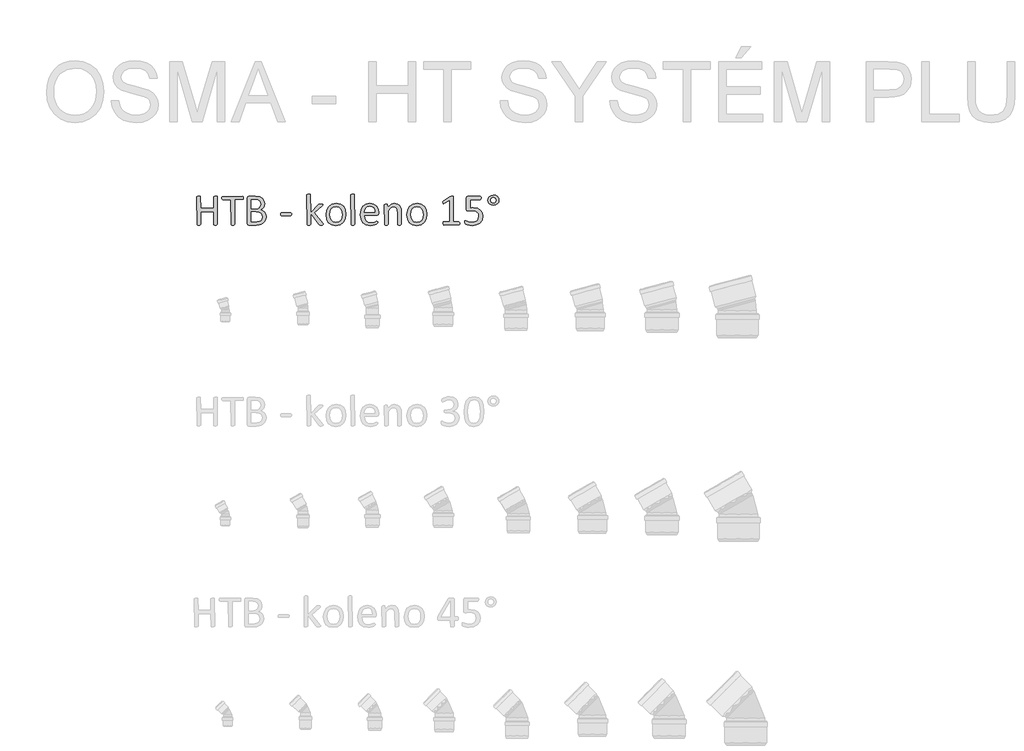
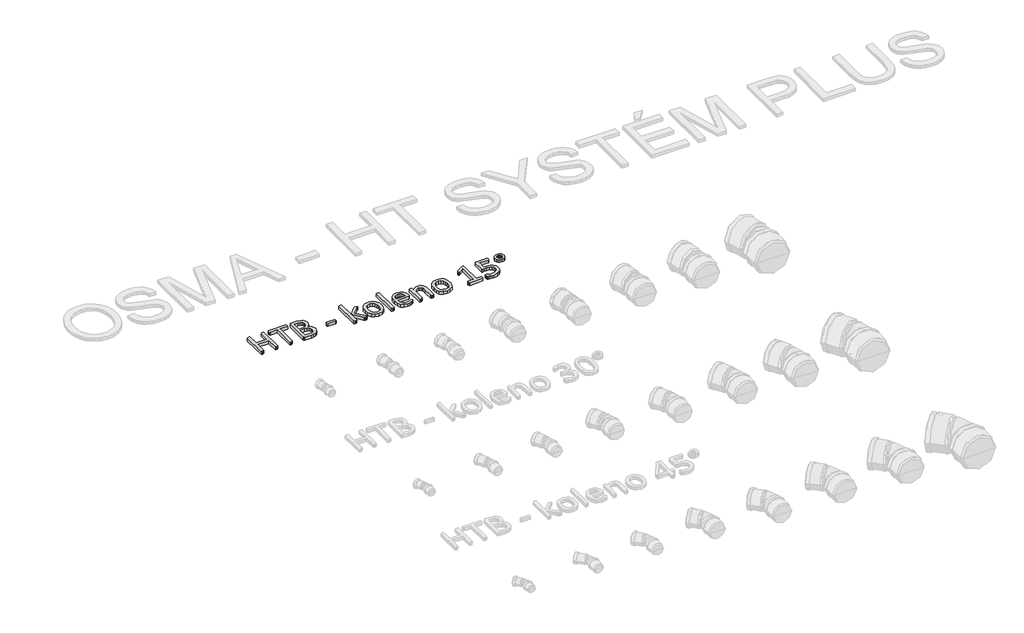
# One storey, part 26 of 26: 1 proxy.
"""IFC4 building model written with IfcOpenShell, lengths in millimetres."""

import ifcopenshell
import ifcopenshell.guid

model = None  # the IFC model being written
_history = None  # IfcOwnerHistory: only IFC2X3 demands one
_inside = {}  # id of a spatial element -> (the spatial element, [elements in it])
_under = {}  # id of a project, library or spatial element -> (it, [spatial elements below it])
_declared = {}  # id of a project -> (the project, [libraries it declares])
_typed = {}  # id of a type object -> (the type object, [elements of that type])
_made_of = {}  # id of a material, layer set ... -> (it, [elements and type objects made of it])


def new_model(schema):
    """Start an empty IFC model of exactly this schema.

    Asked for "IFC4X3", IfcOpenShell would pick the latest addendum, in which some entities
    have other attributes; the version numbers below select the first issue.
    IFC2X3 requires an IfcOwnerHistory on every rooted entity: one is made here for all.
    """
    global model, _history
    if schema == "IFC4X3":
        model = ifcopenshell.file(schema_version=(4, 3, 0, 0))
    else:
        model = ifcopenshell.file(schema=schema)
    _inside.clear()
    _under.clear()
    _declared.clear()
    _typed.clear()
    _made_of.clear()
    _history = None
    if model.schema == "IFC2X3":
        org = make("IfcOrganization", Name="unknown")
        user = make(
            "IfcPersonAndOrganization",
            ThePerson=make("IfcPerson", FamilyName="unknown"),
            TheOrganization=org,
        )
        app = make(
            "IfcApplication",
            ApplicationDeveloper=org,
            Version="unknown",
            ApplicationFullName="unknown",
            ApplicationIdentifier="unknown",
        )
        _history = make(
            "IfcOwnerHistory",
            OwningUser=user,
            OwningApplication=app,
            ChangeAction="ADDED",
            CreationDate=0,
        )
    return model


def make(cls, **values):
    """One entity of the class cls with the attributes given. An attribute that is None is left unset."""
    return model.create_entity(
        cls, **{name: value for name, value in values.items() if value is not None}
    )


def rooted(cls, **values):
    """An entity with a GlobalId (a new one), such as an element, a storey or a relation."""
    return make(cls, GlobalId=ifcopenshell.guid.new(), OwnerHistory=_history, **values)


def si_unit(unit_type, name, prefix=None):
    """IfcSIUnit, for example si_unit("LENGTHUNIT", "METRE", prefix="MILLI")."""
    return make("IfcSIUnit", UnitType=unit_type, Prefix=prefix, Name=name)


def assignment(units):
    """IfcUnitAssignment: the units of a project."""
    return None if units is None else make("IfcUnitAssignment", Units=units)


def point(xyz):
    """IfcCartesianPoint."""
    return None if xyz is None else make("IfcCartesianPoint", Coordinates=xyz)


def direction(xyz):
    """IfcDirection."""
    return None if xyz is None else make("IfcDirection", DirectionRatios=xyz)


def frame(location, z_axis=None, x_axis=None):
    """IfcAxis2Placement3D, a coordinate frame: its origin and axes. An axis left out is left unset."""
    return make(
        "IfcAxis2Placement3D",
        Location=point(location),
        Axis=direction(z_axis),
        RefDirection=direction(x_axis),
    )


def origin():
    """The frame at (0, 0, 0) with its axes left unset."""
    return frame((0.0, 0.0, 0.0))


def origin_with_axes():
    """The frame at (0, 0, 0) with the z axis (0, 0, 1) and the x axis (1, 0, 0) written out."""
    return frame((0.0, 0.0, 0.0), z_axis=(0.0, 0.0, 1.0), x_axis=(1.0, 0.0, 0.0))


def place(relative_to, where):
    """IfcLocalPlacement: puts the frame where relative to a parent placement (None: the world)."""
    return make(
        "IfcLocalPlacement", PlacementRelTo=relative_to, RelativePlacement=where
    )


def context(
    kind, dimensions, precision=None, world=None, true_north=None, identifier=None
):
    """IfcGeometricRepresentationContext, for example the 3D "Model" context."""
    return make(
        "IfcGeometricRepresentationContext",
        ContextIdentifier=identifier,
        ContextType=kind,
        CoordinateSpaceDimension=dimensions,
        Precision=precision,
        WorldCoordinateSystem=world,
        TrueNorth=true_north,
    )


def project(units=None, contexts=None):
    """IfcProject with its units and contexts."""
    return rooted(
        "IfcProject",
        Name="project",
        RepresentationContexts=contexts,
        UnitsInContext=assignment(units),
    )


def spatial(cls, under=None, at=None, **own):
    """A site, building, storey or space (cls), placed at a placement, below another one or the project."""
    s = rooted(cls, ObjectPlacement=at, **own)
    if under is not None:
        _under.setdefault(under.id(), (under, []))[1].append(s)
    return s


def polyline(points):
    """IfcPolyline through the points."""
    return make("IfcPolyline", Points=[point(p) for p in points])


def outline(outer, holes=None, kind="AREA"):
    """IfcArbitraryClosedProfileDef: a profile drawn as a closed curve; with holes, ...WithVoids."""
    if holes is None:
        return make("IfcArbitraryClosedProfileDef", ProfileType=kind, OuterCurve=outer)
    return make(
        "IfcArbitraryProfileDefWithVoids",
        ProfileType=kind,
        OuterCurve=outer,
        InnerCurves=holes,
    )


def extrude(swept, where, along, depth):
    """IfcExtrudedAreaSolid: the profile swept, set in the frame where, extruded along a direction by depth."""
    return make(
        "IfcExtrudedAreaSolid",
        SweptArea=swept,
        Position=where,
        ExtrudedDirection=direction(along),
        Depth=depth,
    )


def shape(context_of_items, identifier, shape_type, items):
    """IfcShapeRepresentation: the items that make up one representation, for example the "Body"."""
    return make(
        "IfcShapeRepresentation",
        ContextOfItems=context_of_items,
        RepresentationIdentifier=identifier,
        RepresentationType=shape_type,
        Items=items,
    )


def made_of(thing, what):
    """Note that an element or type object is made of a material, layer set ...; save() writes the relation."""
    if what is not None:
        _made_of.setdefault(what.id(), (what, []))[1].append(thing)
    return thing


def element(
    cls,
    number,
    at=None,
    inside=None,
    cuts=None,
    type_object=None,
    material=None,
    context=None,
    identifier="Body",
    shape_type=None,
    held_by="IfcProductDefinitionShape",
    body=None,
    shapes=None,
    **own,
):
    """One element of the class cls, such as IfcWall. Its Tag is "e" and its number.

    at: its placement. inside: the storey or other place that contains it. cuts: it is an
    opening in that element (IfcRelVoidsElement). A single representation is given by context,
    identifier, shape_type and body (its items); several are given by shapes. held_by: the class
    of the entity that holds the representations. save() writes the other relations.
    """
    e = rooted(cls, Tag="e%d" % number, ObjectPlacement=at, **own)
    if body is not None:
        shapes = [shape(context, identifier, shape_type, body)]
    if shapes is not None:
        e.Representation = make(held_by, Representations=shapes)
    if inside is not None:
        _inside.setdefault(inside.id(), (inside, []))[1].append(e)
    if cuts is not None:
        rooted(
            "IfcRelVoidsElement", RelatingBuildingElement=cuts, RelatedOpeningElement=e
        )
    if type_object is not None:
        _typed.setdefault(type_object.id(), (type_object, []))[1].append(e)
    return made_of(e, material)


def aggregate(whole, parts):
    """IfcRelAggregates: a whole, such as a stair, and the parts it consists of."""
    return rooted("IfcRelAggregates", RelatingObject=whole, RelatedObjects=parts)


def save(model, path):
    """Write the relations noted so far, then the file.

    IfcRelAggregates (storeys below a building ...), IfcRelContainedInSpatialStructure (elements
    in a storey), IfcRelDefinesByType, IfcRelAssociatesMaterial and IfcRelDeclares: one each for
    every whole, place, type object, material and project.
    """
    for whole, parts in _under.values():
        aggregate(whole, parts)
    for where, things in _inside.values():
        rooted(
            "IfcRelContainedInSpatialStructure",
            RelatedElements=things,
            RelatingStructure=where,
        )
    for kind, things in _typed.values():
        rooted("IfcRelDefinesByType", RelatedObjects=things, RelatingType=kind)
    for what, things in _made_of.values():
        rooted("IfcRelAssociatesMaterial", RelatedObjects=things, RelatingMaterial=what)
    for by, libraries in _declared.values():
        rooted("IfcRelDeclares", RelatingContext=by, RelatedDefinitions=libraries)
    model.write(path)


model = new_model("IFC4")

# Units and contexts
model_context = context("Model", 3, world=origin())
ifc_project = project(units=[si_unit("LENGTHUNIT", "METRE", prefix="MILLI")], contexts=[model_context])

# Site, building, storey
site = spatial("IfcSite", under=ifc_project)
building = spatial("IfcBuilding", under=site)
storey = spatial("IfcBuildingStorey", under=building, Name="Podlaží 1", Elevation=0.0)

# Proxy
placement = place(None, origin())
element("IfcBuildingElementProxy", 1, Name="120mm Arial", ObjectType="120mm Arial", at=placement, inside=storey, context=model_context, shape_type="SweptSolid", body=[
    extrude(outline(polyline([(-20454.3813255, 22147.5389944), (-20458.5973427, 22144.8067258), (-20462.45147, 22144.5714973), (-20466.4322587, 22144.8067258), (-20468.8931099, 22145.3495606), (-20470.5939924, 22200.1577836), (-20523.8641833, 22200.1577836), (-20523.8641833, 22147.5028054), (-20528.062106, 22144.8067258), (-20531.9705167, 22144.5714973), (-20535.8427385, 22144.8067258), (-20538.3759677, 22145.3676551), (-20540.0768502, 22262.0409538), (-20535.8427385, 22264.7732224), (-20531.9705167, 22265.0084509), (-20528.062106, 22264.7732224), (-20525.5650658, 22264.2122931), (-20523.8641833, 22214.0543551), (-20470.5939924, 22214.0543551), (-20470.5939924, 22262.0409538), (-20466.4322587, 22264.7732224), (-20462.45147, 22265.0084509), (-20458.5973427, 22264.7732224), (-20456.082208, 22264.2122931), (-20454.3813255, 22147.5389944)])), origin_with_axes(), (0.0, 0.0, 1.0), 15.0),
    extrude(outline(polyline([(-20345.5248483, 22257.9515981), (-20345.7057933, 22254.8212506), (-20346.3029116, 22252.6861003), (-20382.5823725, 22251.1118793), (-20382.5823725, 22147.5389944), (-20386.7802951, 22144.8067258), (-20390.6887059, 22144.5714973), (-20394.5609276, 22144.8067258), (-20397.0941568, 22145.3676551), (-20398.7950393, 22251.1118793), (-20432.7041215, 22251.1118793), (-20435.617335, 22254.8212506), (-20435.8525635, 22257.9515981), (-20435.617335, 22261.1543236), (-20435.0021222, 22263.3980409), (-20348.7094793, 22265.0084509), (-20346.3210061, 22263.3980409), (-20345.7057933, 22261.1543236), (-20345.5248483, 22257.9515981)])), origin_with_axes(), (0.0, 0.0, 1.0), 15.0),
    extrude(outline(polyline([(-20250.5649427, 22178.6253355), (-20251.9944077, 22168.3114737), (-20256.0113854, 22159.8070615), (-20262.2358914, 22153.2025711), (-20270.4507918, 22148.4256246), (-20280.2399132, 22145.5305055), (-20292.1822794, 22144.5714973), (-20323.4133764, 22144.5714973), (-20327.4122596, 22146.0190569), (-20329.3121815, 22151.0855152), (-20329.3121815, 22258.4944329), (-20327.3941651, 22263.5608913), (-20323.3409984, 22265.0084509), (-20295.9821231, 22265.0084509), (-20278.2676133, 22262.927584), (-20266.7776095, 22256.8840229), (-20259.8474182, 22247.1491851), (-20257.5132284, 22234.1030547), (-20258.5446146, 22225.7976819), (-20261.5663951, 22218.4694117), (-20266.5966645, 22212.4620396), (-20273.5449503, 22208.119361), (-20264.5700812, 22204.7718796), (-20257.2960945, 22198.5654681), (-20252.3743921, 22189.7534494), (-20250.5649427, 22178.6253355)]), holes=[polyline([(-20273.7258953, 22231.9317154), (-20274.9382264, 22239.9294819), (-20278.7380702, 22245.9911374), (-20285.505411, 22249.7909812), (-20296.561147, 22251.1118793), (-20313.0995147, 22251.1118793), (-20313.0995147, 22211.7382599), (-20294.8964535, 22211.7382599), (-20284.8721037, 22213.3848588), (-20278.5571252, 22217.7999154), (-20274.8839429, 22224.2777444), (-20273.7258953, 22231.9317154)]), polyline([(-20266.7776095, 22178.4805795), (-20268.4784919, 22187.8173385), (-20273.4544778, 22194.5846794), (-20281.6693782, 22198.746413), (-20294.1002957, 22200.1577836), (-20313.0995147, 22200.1577836), (-20313.0995147, 22158.4680689), (-20290.047129, 22158.4680689), (-20280.5294251, 22159.752778), (-20273.3820999, 22163.5526218), (-20268.5327754, 22169.8133168), (-20266.7776095, 22178.4805795)])]), origin_with_axes(), (0.0, 0.0, 1.0), 15.0),
    extrude(outline(polyline([(-20144.0245607, 22189.7715439), (-20144.8750019, 22185.2117313), (-20147.3539476, 22183.9451168), (-20186.944701, 22183.9451168), (-20189.4960247, 22185.2479203), (-20190.3464659, 22189.7715439), (-20189.4960247, 22194.2589785), (-20186.944701, 22195.5255931), (-20147.3539476, 22195.5255931), (-20144.2597891, 22192.485718), (-20144.0245607, 22189.7715439)])), origin_with_axes(), (0.0, 0.0, 1.0), 15.0),
    extrude(outline(polyline([(-20012.0071309, 22147.5028054), (-20016.0783921, 22144.7524423), (-20020.0772753, 22144.5714973), (-20024.20282, 22144.7162533), (-20026.9531831, 22145.1686156), (-20028.7626325, 22146.0733404), (-20030.0292471, 22147.5028054), (-20065.2773219, 22193.0647418), (-20065.2773219, 22147.3942384), (-20069.4028665, 22144.7524423), (-20073.4198443, 22144.5714973), (-20077.364444, 22144.7524423), (-20079.8614842, 22145.3133716), (-20081.4899887, 22271.3053348), (-20077.364444, 22274.0918869), (-20073.4198443, 22274.2728319), (-20069.4028665, 22274.0918869), (-20066.9601098, 22273.5309576), (-20065.6754007, 22272.5900439), (-20065.2773219, 22195.1637032), (-20033.0691221, 22229.3984862), (-20031.4587122, 22230.9003292), (-20029.4321288, 22231.8955264), (-20026.6455767, 22232.4383613), (-20022.7552604, 22232.5831172), (-20018.7744717, 22232.4383613), (-20016.186959, 22231.9859989), (-20014.757494, 22231.1717467), (-20014.9565334, 22227.6433203), (-20017.0735893, 22225.0919966), (-20049.064655, 22195.2722701), (-20014.2870371, 22151.809295), (-20012.5318712, 22149.2941603), (-20012.0071309, 22147.5028054)])), origin_with_axes(), (0.0, 0.0, 1.0), 15.0),
    extrude(outline(polyline([(-19917.0472252, 22189.482032), (-19919.7252104, 22170.5009075), (-19927.7410713, 22155.5548553), (-19941.094808, 22145.7657339), (-19959.6778536, 22142.2554021), (-19977.5914029, 22145.3495606), (-19990.3299268, 22154.3425242), (-19997.9296144, 22168.6733636), (-20000.4266546, 22187.7811495), (-19997.7848584, 22206.762274), (-19989.823281, 22221.6902317), (-19976.5238277, 22231.4250696), (-19957.9045932, 22234.8992125), (-19939.9729494, 22231.805054), (-19927.2344255, 22222.8120903), (-19919.5985489, 22208.4812509), (-19917.0472252, 22189.482032)]), holes=[polyline([(-19933.259892, 22188.3963623), (-19934.5084121, 22200.9720358), (-19938.6158623, 22211.3582755), (-19946.3422114, 22218.4151282), (-19958.519806, 22221.0026409), (-19970.0821878, 22218.6322622), (-19978.0437652, 22211.9372993), (-19982.6940502, 22201.6958156), (-19984.2139878, 22188.7582522), (-19982.9654677, 22176.1102008), (-19978.8218285, 22165.7601501), (-19971.041196, 22158.7394863), (-19958.8816958, 22156.1519736), (-19947.355503, 22158.5223524), (-19939.3396421, 22165.1630318), (-19934.7255461, 22175.3683265), (-19933.259892, 22188.3963623)])]), origin_with_axes(), (0.0, 0.0, 1.0), 15.0),
    extrude(outline(polyline([(-19879.9897011, 22147.4304274), (-19884.1152457, 22144.7524423), (-19888.1322235, 22144.5714973), (-19892.0768232, 22144.7524423), (-19894.5738634, 22145.3133716), (-19896.2023679, 22271.3053348), (-19892.0768232, 22274.0918869), (-19888.1322235, 22274.2728319), (-19884.1152457, 22274.0918869), (-19881.672489, 22273.5309576), (-19879.9897011, 22147.4304274)])), origin_with_axes(), (0.0, 0.0, 1.0), 15.0),
    extrude(outline(polyline([(-19780.3976049, 22192.8837969), (-19782.1889598, 22187.7811495), (-19786.29641, 22186.261212), (-19840.6160816, 22186.261212), (-19839.2589946, 22172.8712863), (-19834.7534655, 22162.6659915), (-19826.5385651, 22156.1157846), (-19814.1619311, 22153.8358784), (-19803.8842584, 22154.9034535), (-19796.0674369, 22157.3100213), (-19790.6571831, 22159.716589), (-19787.4544576, 22160.7841642), (-19785.1564569, 22157.8890451), (-19785.0297954, 22155.2472489), (-19785.1202679, 22153.311138), (-19789.5715134, 22147.9189788), (-19795.9226809, 22145.4219386), (-19804.969928, 22143.2325048), (-19815.9351915, 22142.2554021), (-19833.6135124, 22145.1505211), (-19846.3701308, 22153.7635004), (-19854.1869523, 22168.1124343), (-19856.8287485, 22188.1430394), (-19854.0602908, 22207.6850932), (-19846.0806189, 22222.3778225), (-19833.4868509, 22231.660298), (-19816.9484832, 22234.8992125), (-19800.3015485, 22231.768865), (-19788.9924896, 22223.3368307), (-19782.4784717, 22210.9059131), (-19780.3976049, 22195.670349), (-19780.3976049, 22192.8837969)]), holes=[polyline([(-19796.6102717, 22197.8416883), (-19797.7818902, 22208.46768), (-19801.8033915, 22216.5333008), (-19808.575256, 22221.6223773), (-19817.9979639, 22223.3187362), (-19827.6423293, 22221.2197748), (-19834.5725206, 22215.6285761), (-19838.8971047, 22207.5041482), (-19840.6160816, 22197.8416883), (-19796.6102717, 22197.8416883)])]), origin_with_axes(), (0.0, 0.0, 1.0), 15.0),
    extrude(outline(polyline([(-19685.4376992, 22147.4304274), (-19689.5632439, 22144.7524423), (-19693.5078436, 22144.5714973), (-19697.5248214, 22144.7524423), (-19699.9675781, 22145.2952771), (-19701.650366, 22195.778916), (-19702.7179412, 22207.1422583), (-19705.8120997, 22214.5790955), (-19711.0775975, 22219.3560419), (-19718.5506236, 22221.0026409), (-19729.5339816, 22216.9675687), (-19741.0239855, 22205.115675), (-19741.0239855, 22147.4304274), (-19745.1495301, 22144.7524423), (-19749.1665079, 22144.5714973), (-19753.1111076, 22144.7524423), (-19755.6081478, 22145.2952771), (-19757.2366523, 22229.7603761), (-19753.5091865, 22232.4383613), (-19749.8540986, 22232.5831172), (-19746.2713888, 22232.4383613), (-19744.0638605, 22231.8955264), (-19742.580112, 22218.8674906), (-19728.7378239, 22231.0450852), (-19714.8231578, 22234.8992125), (-19700.9989642, 22232.0764714), (-19691.9155281, 22224.5310673), (-19686.9395422, 22213.4753313), (-19685.4376992, 22198.2397672), (-19685.4376992, 22147.4304274)])), origin_with_axes(), (0.0, 0.0, 1.0), 15.0),
    extrude(outline(polyline([(-19578.8973173, 22189.482032), (-19581.5753024, 22170.5009075), (-19589.5911633, 22155.5548553), (-19602.9449001, 22145.7657339), (-19621.5279456, 22142.2554021), (-19639.4414949, 22145.3495606), (-19652.1800188, 22154.3425242), (-19659.7797064, 22168.6733636), (-19662.2767466, 22187.7811495), (-19659.6349505, 22206.762274), (-19651.673373, 22221.6902317), (-19638.3739197, 22231.4250696), (-19619.7546852, 22234.8992125), (-19601.8230414, 22231.805054), (-19589.0845175, 22222.8120903), (-19581.4486409, 22208.4812509), (-19578.8973173, 22189.482032)]), holes=[polyline([(-19595.1099841, 22188.3963623), (-19596.3585042, 22200.9720358), (-19600.4659544, 22211.3582755), (-19608.1923034, 22218.4151282), (-19620.369898, 22221.0026409), (-19631.9322798, 22218.6322622), (-19639.8938573, 22211.9372993), (-19644.5441423, 22201.6958156), (-19646.0640798, 22188.7582522), (-19644.8155597, 22176.1102008), (-19640.6719205, 22165.7601501), (-19632.891288, 22158.7394863), (-19620.7317879, 22156.1519736), (-19609.2055951, 22158.5223524), (-19601.1897341, 22165.1630318), (-19596.5756381, 22175.3683265), (-19595.1099841, 22188.3963623)])]), origin_with_axes(), (0.0, 0.0, 1.0), 15.0),
    extrude(outline(polyline([(-19442.2476969, 22151.4112161), (-19442.5191143, 22148.1903962), (-19443.2609886, 22146.0733404), (-19508.4011678, 22144.5714973), (-19511.4591373, 22148.1903962), (-19511.7305547, 22151.4112161), (-19511.4591373, 22154.5415636), (-19510.7715465, 22156.712903), (-19509.7763493, 22158.0157065), (-19483.9374116, 22158.4680689), (-19483.9374116, 22248.795784), (-19506.2660175, 22234.8992125), (-19508.9982861, 22233.7954483), (-19510.6629796, 22234.2116217), (-19511.5134208, 22236.1839216), (-19511.7305547, 22239.63997), (-19511.6038933, 22242.2817661), (-19511.2058144, 22244.10931), (-19509.1249475, 22246.4796888), (-19482.4536631, 22263.9227812), (-19478.1109845, 22264.9541674), (-19475.2882434, 22265.0084509), (-19471.5064941, 22264.8275059), (-19469.1542098, 22264.3208601), (-19467.7247448, 22158.4680689), (-19445.6494618, 22158.4680689), (-19443.1524216, 22156.712903), (-19442.4829253, 22154.5415636), (-19442.2476969, 22151.4112161)])), origin_with_axes(), (0.0, 0.0, 1.0), 15.0),
    extrude(outline(polyline([(-19344.971696, 22182.2080453), (-19348.2467994, 22165.2173152), (-19357.5111805, 22152.6778307), (-19371.7696419, 22144.9152927), (-19390.1717425, 22142.2554021), (-19400.8293996, 22143.0515598), (-19409.8042688, 22145.0238597), (-19416.2640032, 22147.3218605), (-19419.4848232, 22149.1132154), (-19421.3123671, 22153.7092169), (-19421.4028396, 22156.6224305), (-19421.2580836, 22159.4813606), (-19420.7333433, 22161.5441329), (-19415.7211684, 22162.0145898), (-19410.3651981, 22159.6623055), (-19402.0236363, 22157.2738323), (-19390.2079315, 22156.1519736), (-19378.5369828, 22157.6176277), (-19369.3992632, 22162.2317237), (-19363.3737966, 22170.1209232), (-19361.1843628, 22181.6652105), (-19363.0119067, 22191.7619383), (-19368.6211999, 22199.0359249), (-19378.2112819, 22203.360509), (-19392.0897589, 22204.7899741), (-19401.9150693, 22204.2290448), (-19409.5690404, 22203.6681154), (-19413.3326951, 22204.8804466), (-19414.4545538, 22209.5669206), (-19414.4545538, 22258.9287008), (-19413.0069943, 22263.5066078), (-19408.8452606, 22265.0084509), (-19355.4665026, 22265.0084509), (-19352.8608955, 22263.3437574), (-19352.1552102, 22261.2086071), (-19351.9199818, 22258.168732), (-19352.806612, 22252.9575177), (-19355.2855577, 22251.1118793), (-19398.241887, 22251.1118793), (-19398.241887, 22215.7190486), (-19391.8907195, 22216.2799779), (-19384.4176934, 22216.3704504), (-19367.2098294, 22213.9276937), (-19354.9417623, 22207.0336914), (-19347.5049252, 22196.2493728), (-19344.971696, 22182.2080453)])), origin_with_axes(), (0.0, 0.0, 1.0), 15.0),
    extrude(outline(polyline([(-19277.8049335, 22249.1576739), (-19279.5600994, 22240.8884901), (-19284.4998963, 22234.1030547), (-19291.9910169, 22229.5613367), (-19301.3277759, 22227.9509267), (-19310.519779, 22229.4346752), (-19317.6851987, 22233.6145034), (-19322.4259562, 22240.0742378), (-19324.1268387, 22248.4338941), (-19322.3173892, 22256.9383064), (-19317.3414033, 22263.6332693), (-19309.9045662, 22268.0302314), (-19300.6039962, 22269.6406414), (-19291.4662766, 22268.1207039), (-19284.2465734, 22263.9408757), (-19279.5058159, 22257.5173302), (-19277.8049335, 22249.1576739)]), holes=[polyline([(-19289.3854098, 22248.831973), (-19290.2539455, 22253.4279746), (-19292.6786077, 22257.1011569), (-19296.387979, 22259.5077246), (-19301.074453, 22260.3762603), (-19305.5980766, 22259.5077246), (-19309.2531644, 22257.1011569), (-19311.6778266, 22253.482258), (-19312.5463624, 22249.012918), (-19311.6778266, 22244.1997825), (-19309.1988809, 22240.4904112), (-19305.3990371, 22238.0838435), (-19300.6763741, 22237.2153077), (-19296.2432231, 22238.1200324), (-19292.6424187, 22240.6170726), (-19290.2539455, 22244.290255), (-19289.3854098, 22248.831973)])]), origin_with_axes(), (0.0, 0.0, 1.0), 15.0),
])

save(model, "model.ifc")
